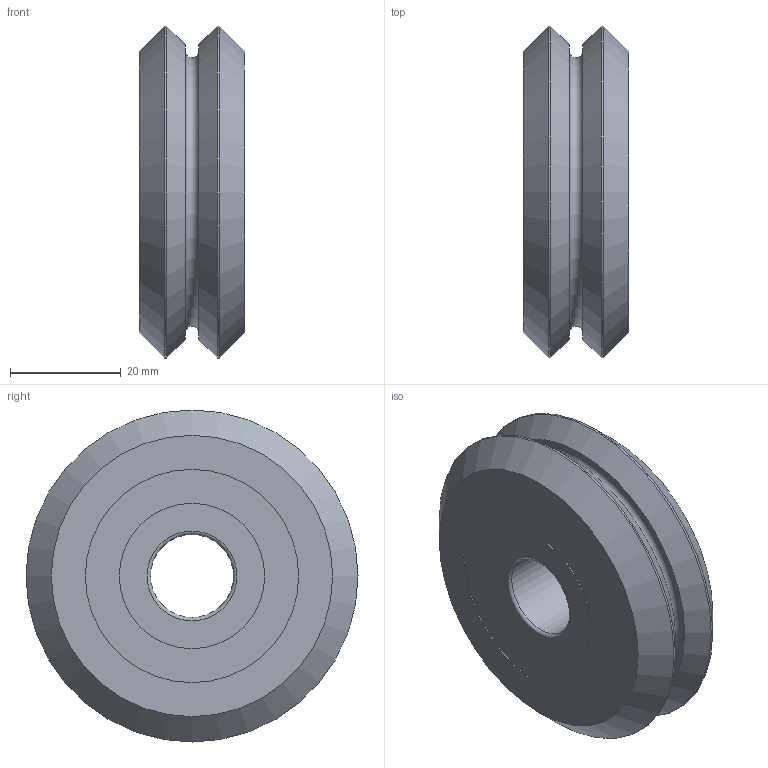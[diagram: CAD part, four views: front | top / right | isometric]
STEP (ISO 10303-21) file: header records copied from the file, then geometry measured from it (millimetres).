
FILE_DESCRIPTION( ( 'STEP AP214' ), '1' );
FILE_NAME( 'p:/temp/worker_39/temp/app_44_02019012316241628554096192d056f_000000_00_00_000000/format_0/W4X.stp', '2019-01-23T15:24:17', ( '' ), ( '' ), ' ', 'PARTsolutions', ' ' );
FILE_SCHEMA( ( 'AUTOMOTIVE_DESIGN { 1 0 10303 214 1 1 1 1 }' ) );
Length unit declared in the file: inch
Products named in the file (1): _W4X
Bounding box: 19.05 x 59.94 x 59.94 mm (x, y, z)
Volume: 41843 mm3; surface area: 9945.3 mm2
Topology: 1 solids, 1 shells, 30 faces, 48 edges, 30 vertices
Faces by surface type: plane 12, cylinder 11, cone 4, torus 3
Full cylindrical faces by diameter (mm): 15.001 x1, 25.857 x2, 26.238 x2, 38.519 x2, 38.9 x2, 59.944 x2
Entity records: 864 total; most frequent: DIRECTION 122, CARTESIAN_POINT 91, AXIS2_PLACEMENT_3D 61, EDGE_LOOP 60, ORIENTED_EDGE 60, FACE_OUTER_BOUND 44, STYLED_ITEM 30, PRESENTATION_STYLE_ASSIGNMENT 30
